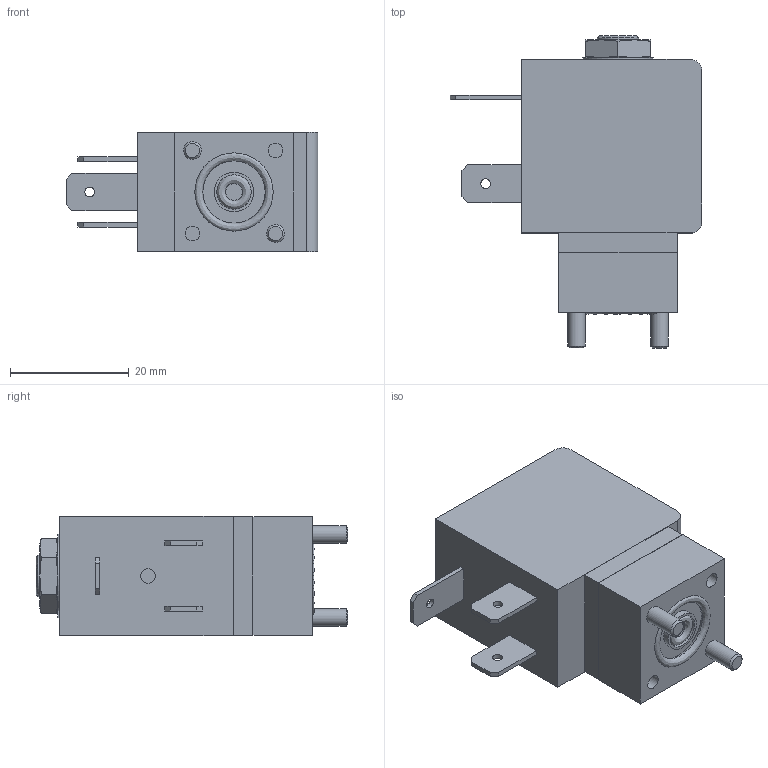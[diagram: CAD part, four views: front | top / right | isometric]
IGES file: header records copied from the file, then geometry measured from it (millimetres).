
Start section: Data from Parasolid IGES Translator 26.0.171, Copyright(c) 2006 Siemens PLM Software. All Rights Reserved.
Global section: file name: 7011-00390052Plunger_valve_2_2_way_direct_acting.igs; native system: By Siemens PLM Incorporated; preprocessor: XPlus GENERIC/IGES 26.0.171; author: Noname; organization: Noname; date: 20250518.141613; units: millimetre
Bounding box: 42.45 x 52.55 x 20.1 mm (x, y, z)
Surface area: 6345.3 mm2 (no closed solid volume)
Topology: 0 solids, 0 shells, 116 faces, 534 edges, 500 vertices
Faces by surface type: extrusion 77, revolution 39
